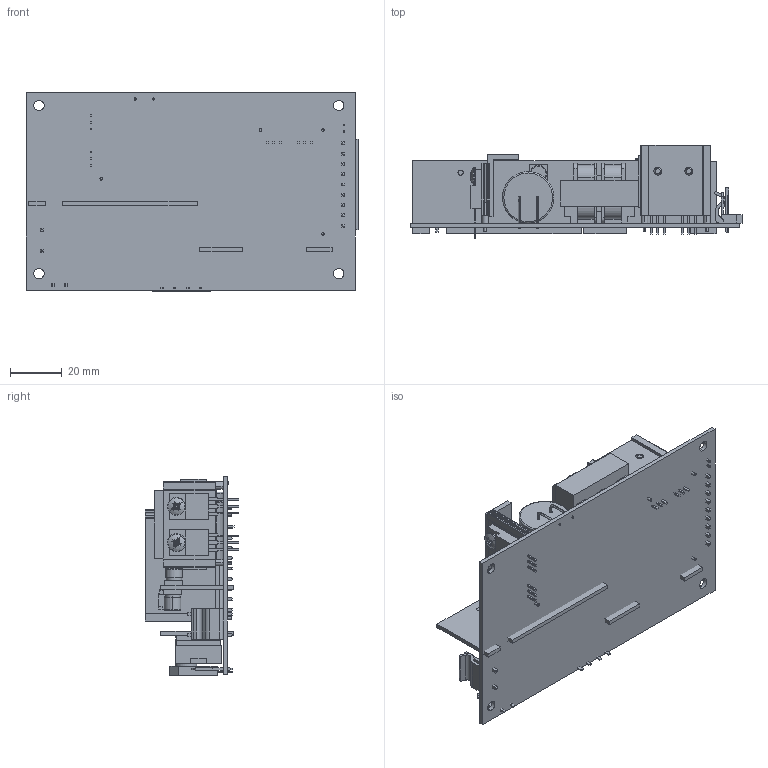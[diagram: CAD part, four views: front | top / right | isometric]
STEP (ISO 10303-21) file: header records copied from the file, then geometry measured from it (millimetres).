
FILE_DESCRIPTION (( 'STEP AP203' ), '1' );
FILE_NAME ('snp-p15x.STEP', '2014-11-11T03:02:10', ( 'mech1' ), ( '' ), 'SwSTEP 2.0', 'SolidWorks 2014', '' );
FILE_SCHEMA (( 'CONFIG_CONTROL_DESIGN' ));
Length unit declared in the file: millimetre
Products named in the file (29): 180-3220; 855-s15x-2; 360-s15x; 710-4502; md1; 242-a147; 800-g123; 710-7309; 410-GU8J; 201-b033; 800-zl26-1; snp-p15x; 790-513X; 360-s15x-a; 800-ga23; TO-220; md2; 700-5125; 890-2027; 855-s15x-1; 710-733; 747-0603; C1; PIN-1.14x17.45; TO-220-1; C2; 710-7702; 855-s15x; 242-p110
Assembly tree (35 placements, depth 3):
  snp-p15x
    855-s15x
    360-s15x
    800-g123
    800-zl26-1
    800-ga23
    700-5125
    710-7702
      710-733
      PIN-1.14x17.45  x2
    md2
      855-s15x-2
      242-a147
      201-b033
      360-s15x-a
    md1
      855-s15x-1
      C1
      C2
      180-3220
    410-GU8J
    790-513X  x4
    TO-220  x2
    890-2027
    747-0603  x2
    TO-220-1  x2
    242-p110
    710-4502
    710-7309
Bounding box: 128 x 36 x 76.7 mm (x, y, z)
Volume: 63412.2 mm3; surface area: 57931.3 mm2
Topology: 43 solids, 43 shells, 1255 faces, 3201 edges, 2102 vertices
Faces by surface type: plane 889, cylinder 210, bspline 96, torus 34, cone 18, sphere 8
Entity records: 34904 total; most frequent: CARTESIAN_POINT 6450, ORIENTED_EDGE 5182, DIRECTION 5101, EDGE_CURVE 2591, VECTOR 2055, LINE 2055, VERTEX_POINT 1680, AXIS2_PLACEMENT_3D 1523
